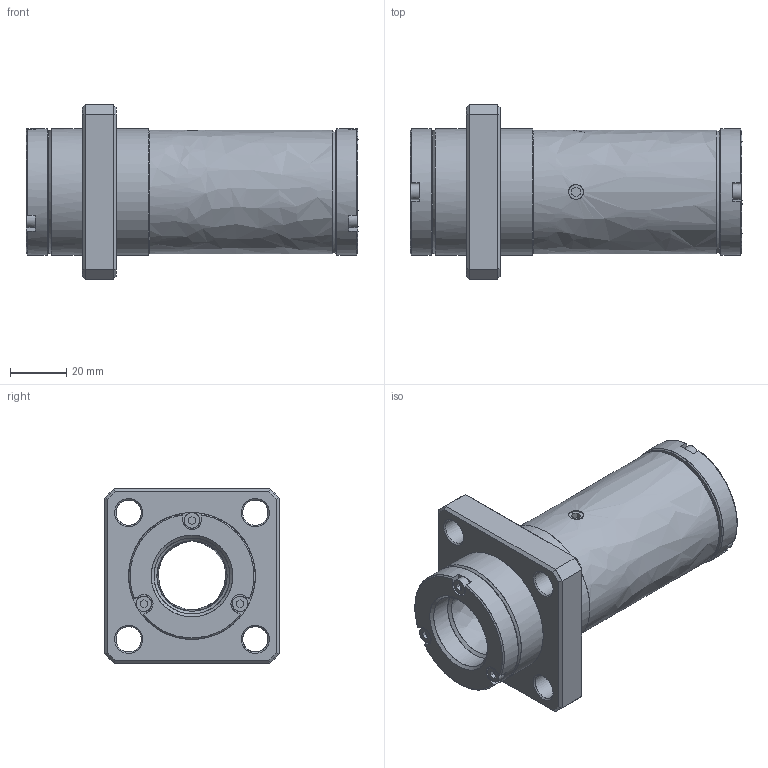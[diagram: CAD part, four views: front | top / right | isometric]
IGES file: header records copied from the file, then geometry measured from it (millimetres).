
Start section: Missler Software 3 rue Hermes, EUROPARC, 31520 Ramonville-Saint-Agne, France Tel   : +33 (0)5 61 00 03 00 Fax   : +33 (0)5 61 00 03 03 Email : sup.solid@topsolid.com
Global section: file name: \\192.168.1.1\share\s-4 技術開発\s-4-4_CAD\s-4-4-3_見直し済み\009 修正済み\LCF-B-K\LCF-25BUU-K.igs; native system: TopSolid v611216 Missler Software; preprocessor: IGES preprocessor v100000; author: yu; organization: コダマコーポレーション株式会社,10,7,13H220203; date: 220203.170901; units: millimetre
Bounding box: 118 x 62 x 62 mm (x, y, z)
Surface area: 35185.5 mm2 (no closed solid volume)
Topology: 0 solids, 0 shells, 162 faces, 1582 edges, 1555 vertices
Faces by surface type: bspline 162
